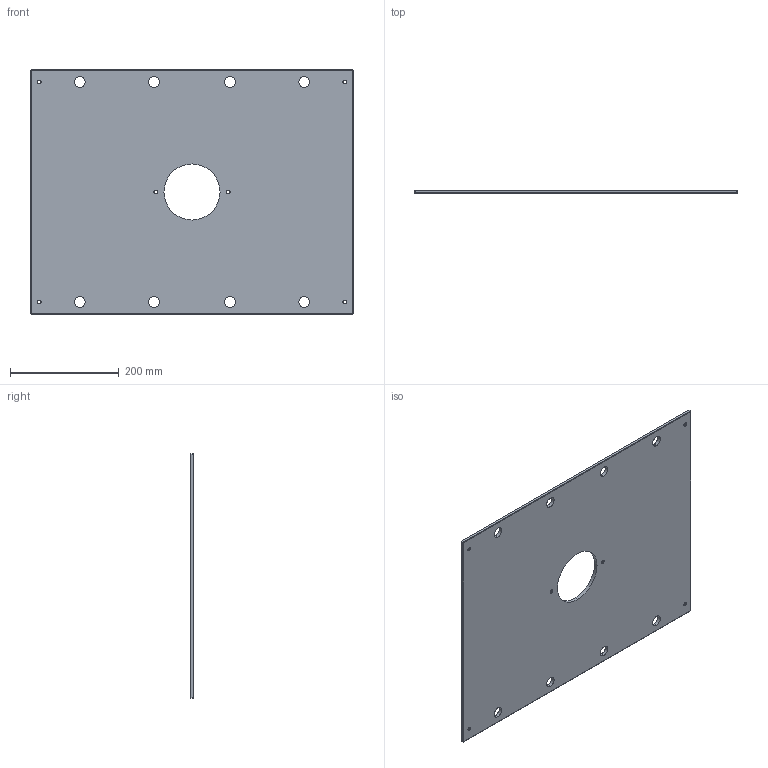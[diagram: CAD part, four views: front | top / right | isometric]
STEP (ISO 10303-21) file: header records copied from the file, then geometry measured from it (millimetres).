
FILE_DESCRIPTION (( 'STEP AP214' ), '1' );
FILE_NAME ('ME-0619-CH-1823.STEP', '2020-02-11T17:56:49', ( '' ), ( '' ), 'SwSTEP 2.0', 'SolidWorks 2018', '' );
FILE_SCHEMA (( 'AUTOMOTIVE_DESIGN' ));
Length unit declared in the file: inch
Products named in the file (1): ME-0619-CH-1823
Bounding box: 593.73 x 6.35 x 450.85 mm (x, y, z)
Volume: 1624861.1 mm3; surface area: 529285.2 mm2
Topology: 1 solids, 1 shells, 68 faces, 162 edges, 96 vertices
Faces by surface type: cylinder 30, plane 26, cone 12
Entity records: 2050 total; most frequent: DIRECTION 372, CARTESIAN_POINT 327, ORIENTED_EDGE 324, EDGE_CURVE 162, AXIS2_PLACEMENT_3D 141, EDGE_LOOP 98, VERTEX_POINT 96, LINE 90
